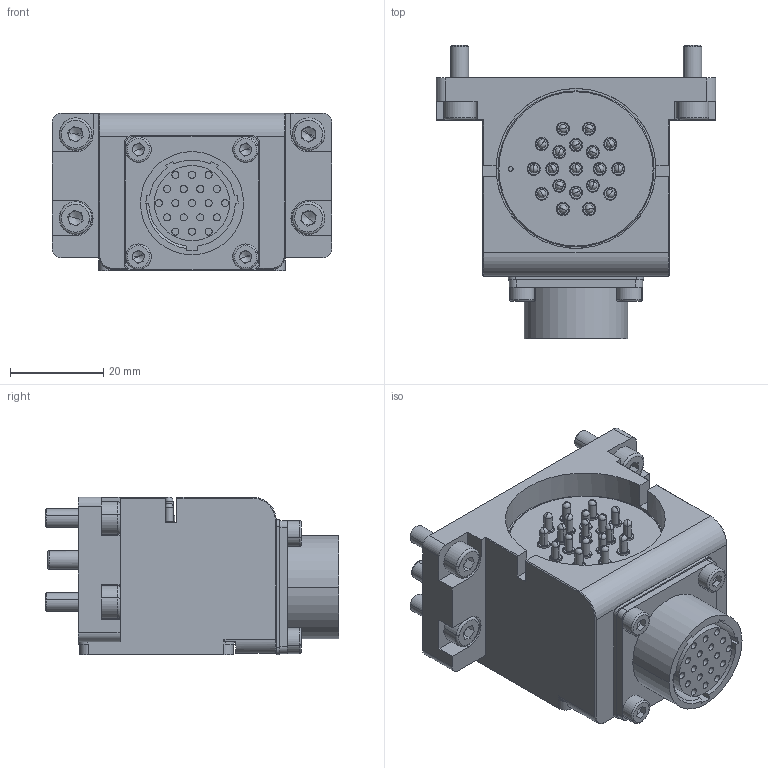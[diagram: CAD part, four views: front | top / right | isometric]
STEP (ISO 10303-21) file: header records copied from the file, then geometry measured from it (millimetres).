
FILE_DESCRIPTION (( 'STEP AP203' ), '1' );
FILE_NAME ('QCSM-19G.STEP', '2025-04-03T07:38:55', ( '' ), ( '' ), 'SwSTEP 2.0', 'SolidWorks 2022', '' );
FILE_SCHEMA (( 'CONFIG_CONTROL_DESIGN' ));
Length unit declared in the file: millimetre
Products named in the file (1): QCSM-19G
Bounding box: 60 x 62.87 x 33.8 mm (x, y, z)
Volume: 59901.6 mm3; surface area: 22831.9 mm2
Topology: 1 solids, 18 shells, 1060 faces, 2474 edges, 1509 vertices
Faces by surface type: cylinder 410, plane 360, cone 220, sphere 38, torus 32
Entity records: 29773 total; most frequent: DIRECTION 5676, CARTESIAN_POINT 5018, ORIENTED_EDGE 4748, EDGE_CURVE 2374, AXIS2_PLACEMENT_3D 2257, VERTEX_POINT 1471, EDGE_LOOP 1229, CIRCLE 1196
